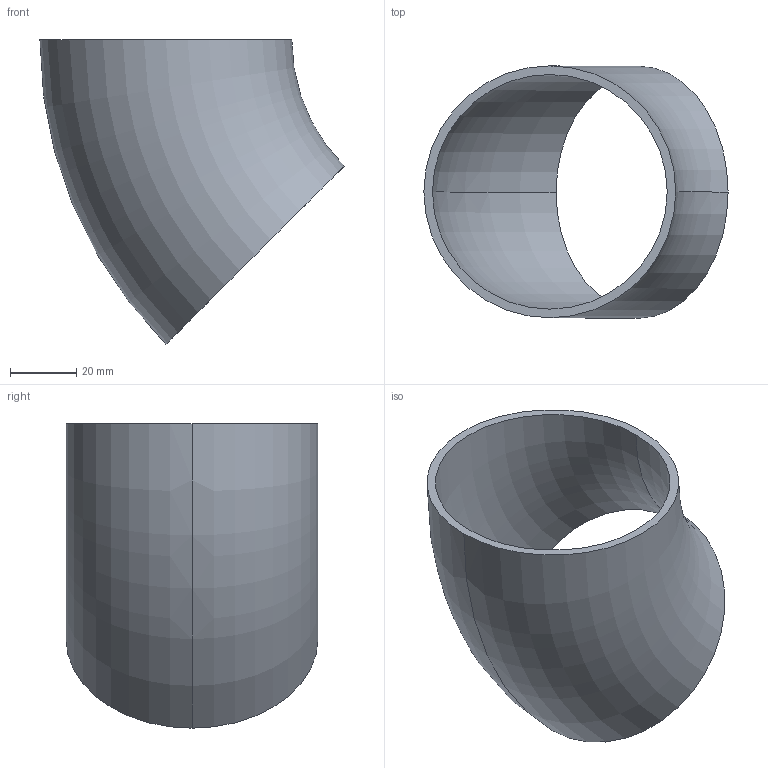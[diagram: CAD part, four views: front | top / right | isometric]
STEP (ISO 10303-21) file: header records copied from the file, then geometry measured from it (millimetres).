
FILE_DESCRIPTION (( 'STEP AP203' ), '1' );
FILE_NAME ('3D_R1650_76.1x2.6_17351370.STEP', '2024-08-03T09:02:09', ( '' ), ( '' ), 'SwSTEP 2.0', 'SolidWorks 2024', '' );
FILE_SCHEMA (( 'CONFIG_CONTROL_DESIGN' ));
Length unit declared in the file: millimetre
Products named in the file (1): 3D_R1650_76.1x2.6_17351370
Bounding box: 91.9 x 76.1 x 91.96 mm (x, y, z)
Volume: 43379.9 mm3; surface area: 34569.8 mm2
Topology: 1 solids, 1 shells, 6 faces, 12 edges, 8 vertices
Faces by surface type: torus 4, plane 2
Entity records: 249 total; most frequent: DIRECTION 38, CARTESIAN_POINT 27, ORIENTED_EDGE 24, AXIS2_PLACEMENT_3D 19, CIRCLE 12, EDGE_CURVE 12, VERTEX_POINT 8, EDGE_LOOP 8
